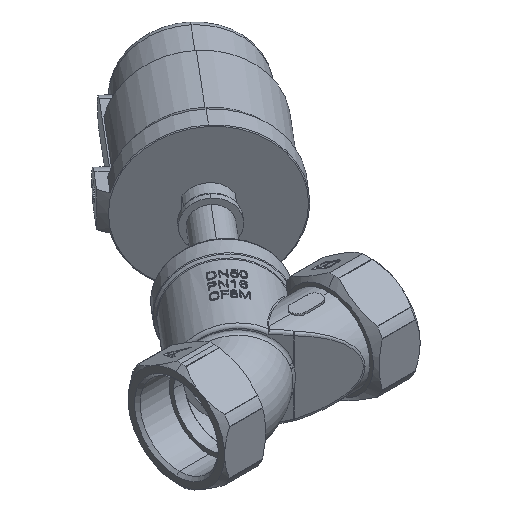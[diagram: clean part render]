
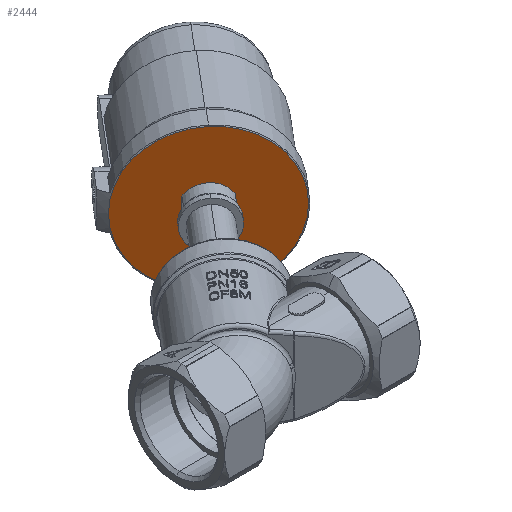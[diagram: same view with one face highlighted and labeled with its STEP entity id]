
A CAD part, isometric view. The second image highlights one B-rep face of the part: STEP entity #2444.
In plain terms, the highlighted planar face has unit normal (-0.643, -0.766, 0) as drawn and (0, -1, 0) by its records, which use the part's own axes.
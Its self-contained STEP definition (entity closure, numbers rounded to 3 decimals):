
#137 = VERTEX_POINT ( 'NONE', #32552 ) ;
#1043 = DIRECTION ( 'NONE',  ( 0., 0., -1. ) ) ;
#2072 = ORIENTED_EDGE ( 'NONE', *, *, #4242, .T. ) ;
#2444 = ADVANCED_FACE ( 'NONE', ( #8286, #34114 ), #35059, .F. ) ;
#2895 = DIRECTION ( 'NONE',  ( 0., 0., -1. ) ) ;
#3201 = CIRCLE ( 'NONE', #8990, 50.856 ) ;
#3374 = VERTEX_POINT ( 'NONE', #7267 ) ;
#4242 = EDGE_CURVE ( 'NONE', #137, #28536, #13455, .T. ) ;
#4313 = ORIENTED_EDGE ( 'NONE', *, *, #16492, .F. ) ;
#5185 = CIRCLE ( 'NONE', #15220, 16. ) ;
#5230 = EDGE_LOOP ( 'NONE', ( #4313, #29126, #34892, #11923, #34518 ) ) ;
#5584 = EDGE_CURVE ( 'NONE', #18576, #34136, #28528, .T. ) ;
#6162 = DIRECTION ( 'NONE',  ( 0., -1., 0. ) ) ;
#6247 = VECTOR ( 'NONE', #2895, 1000. ) ;
#6285 = EDGE_LOOP ( 'NONE', ( #24523, #2072 ) ) ;
#6959 = DIRECTION ( 'NONE',  ( 0., 0., -1. ) ) ;
#7130 = DIRECTION ( 'NONE',  ( 0., 0., -1. ) ) ;
#7199 = EDGE_CURVE ( 'NONE', #34136, #20931, #13384, .T. ) ;
#7267 = CARTESIAN_POINT ( 'NONE',  ( -13.504, 0., 8.582 ) ) ;
#8220 = CARTESIAN_POINT ( 'NONE',  ( 13.504, 0., 8.582 ) ) ;
#8286 = FACE_OUTER_BOUND ( 'NONE', #6285, .T. ) ;
#8451 = DIRECTION ( 'NONE',  ( 0., 0., -1. ) ) ;
#8990 = AXIS2_PLACEMENT_3D ( 'NONE', #12012, #12362, #6959 ) ;
#9002 = DIRECTION ( 'NONE',  ( 0., 0., -1. ) ) ;
#9191 = VECTOR ( 'NONE', #15837, 1000. ) ;
#9604 = AXIS2_PLACEMENT_3D ( 'NONE', #33977, #17507, #1043 ) ;
#10288 = DIRECTION ( 'NONE',  ( 0., 1., 0. ) ) ;
#10308 = CARTESIAN_POINT ( 'NONE',  ( 13.504, 0., 8.582 ) ) ;
#11923 = ORIENTED_EDGE ( 'NONE', *, *, #7199, .F. ) ;
#11989 = DIRECTION ( 'NONE',  ( 0., -1., 0. ) ) ;
#12007 = AXIS2_PLACEMENT_3D ( 'NONE', #28344, #11989, #9002 ) ;
#12012 = CARTESIAN_POINT ( 'NONE',  ( 0., 0., 0. ) ) ;
#12362 = DIRECTION ( 'NONE',  ( 0., -1., 0. ) ) ;
#12826 = VERTEX_POINT ( 'NONE', #18189 ) ;
#13384 = CIRCLE ( 'NONE', #33821, 16. ) ;
#13455 = CIRCLE ( 'NONE', #9604, 50.856 ) ;
#15072 = CARTESIAN_POINT ( 'NONE',  ( 0., 0., -50.856 ) ) ;
#15220 = AXIS2_PLACEMENT_3D ( 'NONE', #29361, #18430, #7130 ) ;
#15815 = CARTESIAN_POINT ( 'NONE',  ( 0., 0., 0. ) ) ;
#15837 = DIRECTION ( 'NONE',  ( 0., 0., 1. ) ) ;
#16492 = EDGE_CURVE ( 'NONE', #12826, #18576, #34595, .T. ) ;
#17177 = AXIS2_PLACEMENT_3D ( 'NONE', #15815, #10288, #21456 ) ;
#17335 = EDGE_CURVE ( 'NONE', #20931, #3374, #5185, .T. ) ;
#17507 = DIRECTION ( 'NONE',  ( 0., -1., 0. ) ) ;
#18189 = CARTESIAN_POINT ( 'NONE',  ( -13.504, 0., -8.582 ) ) ;
#18430 = DIRECTION ( 'NONE',  ( 0., -1., 0. ) ) ;
#18576 = VERTEX_POINT ( 'NONE', #35588 ) ;
#18897 = CARTESIAN_POINT ( 'NONE',  ( -13.504, 0., 8.582 ) ) ;
#20931 = VERTEX_POINT ( 'NONE', #21222 ) ;
#21222 = CARTESIAN_POINT ( 'NONE',  ( 0., 0., 16. ) ) ;
#21456 = DIRECTION ( 'NONE',  ( 0., 0., 1. ) ) ;
#21760 = LINE ( 'NONE', #18897, #6247 ) ;
#24523 = ORIENTED_EDGE ( 'NONE', *, *, #31113, .T. ) ;
#28344 = CARTESIAN_POINT ( 'NONE',  ( 0., 0., 0. ) ) ;
#28528 = LINE ( 'NONE', #10308, #9191 ) ;
#28536 = VERTEX_POINT ( 'NONE', #15072 ) ;
#29094 = EDGE_CURVE ( 'NONE', #3374, #12826, #21760, .T. ) ;
#29126 = ORIENTED_EDGE ( 'NONE', *, *, #29094, .F. ) ;
#29361 = CARTESIAN_POINT ( 'NONE',  ( 0., 0., 0. ) ) ;
#30818 = CARTESIAN_POINT ( 'NONE',  ( 0., 0., 0. ) ) ;
#31113 = EDGE_CURVE ( 'NONE', #28536, #137, #3201, .T. ) ;
#32552 = CARTESIAN_POINT ( 'NONE',  ( 0., 0., 50.856 ) ) ;
#33821 = AXIS2_PLACEMENT_3D ( 'NONE', #30818, #6162, #8451 ) ;
#33977 = CARTESIAN_POINT ( 'NONE',  ( 0., 0., 0. ) ) ;
#34114 = FACE_BOUND ( 'NONE', #5230, .T. ) ;
#34136 = VERTEX_POINT ( 'NONE', #8220 ) ;
#34518 = ORIENTED_EDGE ( 'NONE', *, *, #5584, .F. ) ;
#34595 = CIRCLE ( 'NONE', #12007, 16. ) ;
#34892 = ORIENTED_EDGE ( 'NONE', *, *, #17335, .F. ) ;
#35059 = PLANE ( 'NONE',  #17177 ) ;
#35588 = CARTESIAN_POINT ( 'NONE',  ( 13.504, 0., -8.582 ) ) ;
